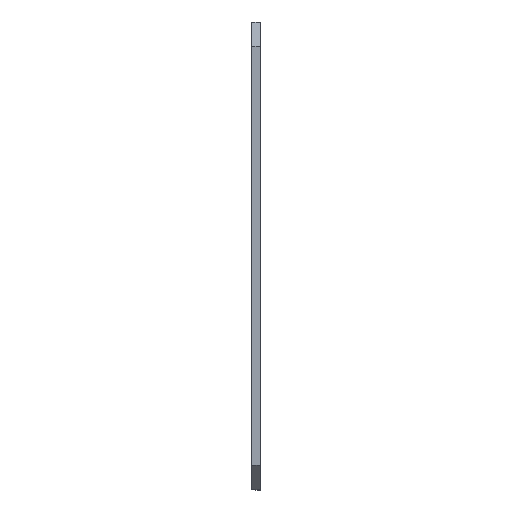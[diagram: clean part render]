
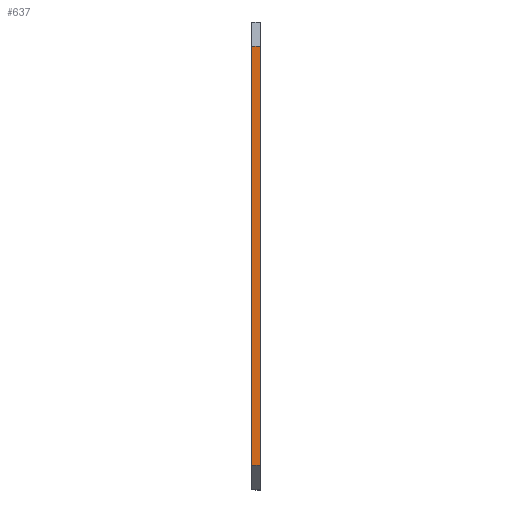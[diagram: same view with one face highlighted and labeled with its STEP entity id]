
A CAD part, top view. The second image highlights one B-rep face of the part: STEP entity #637.
In plain terms, the highlighted planar face has unit normal (0, 0, 1).
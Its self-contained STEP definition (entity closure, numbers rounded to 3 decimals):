
#94 = AXIS2_PLACEMENT_3D ( 'NONE', #924, #1037, #933 ) ;
#171 = EDGE_CURVE ( 'NONE', #1134, #1168, #337, .T. ) ;
#184 = EDGE_CURVE ( 'NONE', #1136, #1173, #362, .T. ) ;
#187 = EDGE_CURVE ( 'NONE', #1168, #1173, #368, .T. ) ;
#231 = EDGE_CURVE ( 'NONE', #1134, #1136, #366, .T. ) ;
#273 = VECTOR ( 'NONE', #1059, 1000. ) ;
#301 = FACE_OUTER_BOUND ( 'NONE', #559, .T. ) ;
#337 = LINE ( 'NONE', #883, #342 ) ;
#342 = VECTOR ( 'NONE', #881, 1000. ) ;
#362 = LINE ( 'NONE', #995, #363 ) ;
#363 = VECTOR ( 'NONE', #994, 1000. ) ;
#366 = LINE ( 'NONE', #1034, #273 ) ;
#368 = LINE ( 'NONE', #1009, #369 ) ;
#369 = VECTOR ( 'NONE', #1008, 1000. ) ;
#529 = ORIENTED_EDGE ( 'NONE', *, *, #187, .T. ) ;
#530 = ORIENTED_EDGE ( 'NONE', *, *, #184, .F. ) ;
#538 = ORIENTED_EDGE ( 'NONE', *, *, #231, .F. ) ;
#539 = ORIENTED_EDGE ( 'NONE', *, *, #171, .T. ) ;
#559 = EDGE_LOOP ( 'NONE', ( #529, #530, #538, #539 ) ) ;
#637 = ADVANCED_FACE ( 'NONE', ( #301 ), #939, .F. ) ;
#713 = CARTESIAN_POINT ( 'NONE',  ( 0., 27.5, 16.5 ) ) ;
#718 = CARTESIAN_POINT ( 'NONE',  ( 0., -24.5, 16.5 ) ) ;
#745 = CARTESIAN_POINT ( 'NONE',  ( -1., -24.5, 16.5 ) ) ;
#747 = CARTESIAN_POINT ( 'NONE',  ( -1., 27.5, 16.5 ) ) ;
#881 = DIRECTION ( 'NONE',  ( 1., 0., 0. ) ) ;
#883 = CARTESIAN_POINT ( 'NONE',  ( -1., -24.5, 16.5 ) ) ;
#924 = CARTESIAN_POINT ( 'NONE',  ( -1., 27.5, 16.5 ) ) ;
#933 = DIRECTION ( 'NONE',  ( 1., 0., 0. ) ) ;
#939 = PLANE ( 'NONE',  #94 ) ;
#994 = DIRECTION ( 'NONE',  ( 1., 0., 0. ) ) ;
#995 = CARTESIAN_POINT ( 'NONE',  ( -1., 27.5, 16.5 ) ) ;
#1008 = DIRECTION ( 'NONE',  ( 0., 1., 0. ) ) ;
#1009 = CARTESIAN_POINT ( 'NONE',  ( 0., 27.5, 16.5 ) ) ;
#1034 = CARTESIAN_POINT ( 'NONE',  ( -1., 27.5, 16.5 ) ) ;
#1037 = DIRECTION ( 'NONE',  ( 0., 0., -1. ) ) ;
#1059 = DIRECTION ( 'NONE',  ( 0., 1., 0. ) ) ;
#1134 = VERTEX_POINT ( 'NONE', #745 ) ;
#1136 = VERTEX_POINT ( 'NONE', #747 ) ;
#1168 = VERTEX_POINT ( 'NONE', #718 ) ;
#1173 = VERTEX_POINT ( 'NONE', #713 ) ;
